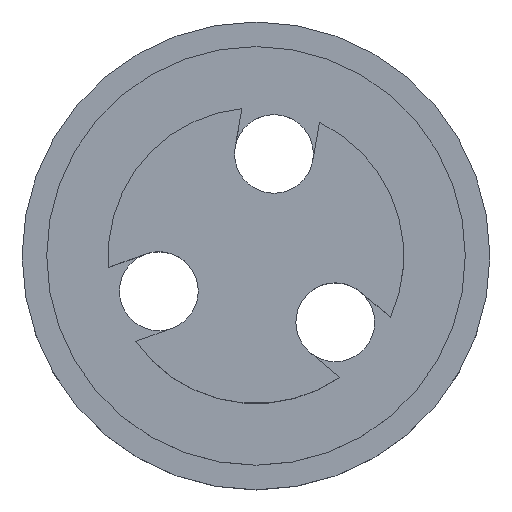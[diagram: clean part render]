
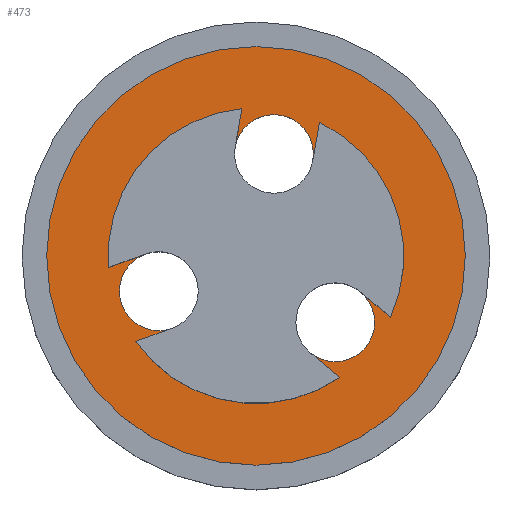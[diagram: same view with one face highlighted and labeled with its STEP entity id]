
A CAD part, top view. The second image highlights one B-rep face of the part: STEP entity #473.
In plain terms, the highlighted planar face has unit normal (0, 0, 1).
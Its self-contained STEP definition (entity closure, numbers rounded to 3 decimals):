
#19=FACE_BOUND('',#117,.T.);
#24=CIRCLE('',#503,1.6);
#25=CIRCLE('',#505,6.);
#28=CIRCLE('',#509,6.);
#29=CIRCLE('',#511,1.6);
#32=CIRCLE('',#515,1.6);
#34=CIRCLE('',#517,1.6);
#49=CIRCLE('',#541,8.5);
#50=CIRCLE('',#542,6.);
#87=FACE_OUTER_BOUND('',#116,.T.);
#116=EDGE_LOOP('',(#402));
#117=EDGE_LOOP('',(#403,#404,#405,#406,#407,#408,#409,#410,#411,#412,#413,
#414,#415));
#126=LINE('',#712,#161);
#130=LINE('',#721,#165);
#134=LINE('',#730,#169);
#138=LINE('',#739,#173);
#142=LINE('',#748,#177);
#146=LINE('',#757,#181);
#161=VECTOR('',#557,10.);
#165=VECTOR('',#563,10.);
#169=VECTOR('',#569,10.);
#173=VECTOR('',#575,10.);
#177=VECTOR('',#581,10.);
#181=VECTOR('',#587,10.);
#196=VERTEX_POINT('',#709);
#197=VERTEX_POINT('',#711);
#200=VERTEX_POINT('',#718);
#201=VERTEX_POINT('',#720);
#204=VERTEX_POINT('',#727);
#205=VERTEX_POINT('',#729);
#208=VERTEX_POINT('',#736);
#209=VERTEX_POINT('',#738);
#212=VERTEX_POINT('',#745);
#213=VERTEX_POINT('',#747);
#216=VERTEX_POINT('',#754);
#217=VERTEX_POINT('',#756);
#221=VERTEX_POINT('',#780);
#236=VERTEX_POINT('',#828);
#241=EDGE_CURVE('',#197,#196,#126,.T.);
#245=EDGE_CURVE('',#201,#200,#130,.T.);
#249=EDGE_CURVE('',#205,#204,#134,.T.);
#253=EDGE_CURVE('',#209,#208,#138,.T.);
#257=EDGE_CURVE('',#213,#212,#142,.T.);
#261=EDGE_CURVE('',#217,#216,#146,.T.);
#267=EDGE_CURVE('',#208,#205,#24,.T.);
#268=EDGE_CURVE('',#212,#201,#25,.T.);
#271=EDGE_CURVE('',#204,#217,#28,.T.);
#272=EDGE_CURVE('',#216,#213,#29,.T.);
#276=EDGE_CURVE('',#200,#221,#32,.T.);
#278=EDGE_CURVE('',#221,#197,#34,.T.);
#300=EDGE_CURVE('',#236,#236,#49,.T.);
#301=EDGE_CURVE('',#196,#209,#50,.T.);
#402=ORIENTED_EDGE('',*,*,#300,.F.);
#403=ORIENTED_EDGE('',*,*,#271,.T.);
#404=ORIENTED_EDGE('',*,*,#261,.T.);
#405=ORIENTED_EDGE('',*,*,#272,.T.);
#406=ORIENTED_EDGE('',*,*,#257,.T.);
#407=ORIENTED_EDGE('',*,*,#268,.T.);
#408=ORIENTED_EDGE('',*,*,#245,.T.);
#409=ORIENTED_EDGE('',*,*,#276,.T.);
#410=ORIENTED_EDGE('',*,*,#278,.T.);
#411=ORIENTED_EDGE('',*,*,#241,.T.);
#412=ORIENTED_EDGE('',*,*,#301,.T.);
#413=ORIENTED_EDGE('',*,*,#253,.T.);
#414=ORIENTED_EDGE('',*,*,#267,.T.);
#415=ORIENTED_EDGE('',*,*,#249,.T.);
#451=PLANE('',#540);
#473=ADVANCED_FACE('',(#87,#19),#451,.F.);
#503=AXIS2_PLACEMENT_3D('',#766,#598,#599);
#505=AXIS2_PLACEMENT_3D('',#768,#602,#603);
#509=AXIS2_PLACEMENT_3D('',#772,#610,#611);
#511=AXIS2_PLACEMENT_3D('',#774,#614,#615);
#515=AXIS2_PLACEMENT_3D('',#781,#623,#624);
#517=AXIS2_PLACEMENT_3D('',#783,#627,#628);
#540=AXIS2_PLACEMENT_3D('',#827,#680,#681);
#541=AXIS2_PLACEMENT_3D('',#829,#682,#683);
#542=AXIS2_PLACEMENT_3D('',#830,#684,#685);
#557=DIRECTION('',(0.766,-0.643,0.));
#563=DIRECTION('',(-0.766,0.643,0.));
#569=DIRECTION('',(-0.94,-0.342,0.));
#575=DIRECTION('',(0.94,0.342,0.));
#581=DIRECTION('',(0.174,0.985,0.));
#587=DIRECTION('',(-0.174,-0.985,0.));
#598=DIRECTION('center_axis',(0.,0.,
-1.));
#599=DIRECTION('ref_axis',(-0.985,0.174,0.));
#602=DIRECTION('center_axis',(0.,0.,
-1.));
#603=DIRECTION('ref_axis',(0.985,-0.174,0.));
#610=DIRECTION('center_axis',(0.,0.,
-1.));
#611=DIRECTION('ref_axis',(0.985,-0.174,0.));
#614=DIRECTION('center_axis',(0.,0.,
-1.));
#615=DIRECTION('ref_axis',(-0.985,0.174,0.));
#623=DIRECTION('center_axis',(0.,0.,
-1.));
#624=DIRECTION('ref_axis',(-0.985,0.174,0.));
#627=DIRECTION('center_axis',(0.,0.,
-1.));
#628=DIRECTION('ref_axis',(-0.985,0.174,0.));
#680=DIRECTION('center_axis',(0.,0.,
-1.));
#681=DIRECTION('ref_axis',(0.985,-0.174,0.));
#682=DIRECTION('center_axis',(0.,0.,
-1.));
#683=DIRECTION('ref_axis',(0.985,-0.174,0.));
#684=DIRECTION('center_axis',(0.,0.,
-1.));
#685=DIRECTION('ref_axis',(0.985,-0.174,0.));
#709=CARTESIAN_POINT('',(3.401,-4.943,11.8));
#711=CARTESIAN_POINT('',(2.189,-3.925,11.8));
#712=CARTESIAN_POINT('',(3.568,-5.082,11.8));
#718=CARTESIAN_POINT('',(4.246,-1.474,11.8));
#720=CARTESIAN_POINT('',(5.458,-2.491,11.8));
#721=CARTESIAN_POINT('',(4.246,-1.474,11.8));
#727=CARTESIAN_POINT('',(-5.981,-0.474,11.8));
#729=CARTESIAN_POINT('',(-4.494,0.067,11.8));
#730=CARTESIAN_POINT('',(-6.185,-0.549,11.8));
#736=CARTESIAN_POINT('',(-3.399,-2.94,11.8));
#738=CARTESIAN_POINT('',(-4.887,-3.481,11.8));
#739=CARTESIAN_POINT('',(-3.399,-2.94,11.8));
#745=CARTESIAN_POINT('',(2.58,5.417,11.8));
#747=CARTESIAN_POINT('',(2.305,3.858,11.8));
#748=CARTESIAN_POINT('',(2.618,5.631,11.8));
#754=CARTESIAN_POINT('',(-0.846,4.414,11.8));
#756=CARTESIAN_POINT('',(-0.572,5.973,11.8));
#757=CARTESIAN_POINT('',(-0.846,4.414,11.8));
#766=CARTESIAN_POINT('Origin',(-3.947,-1.436,11.8));
#768=CARTESIAN_POINT('Origin',(0.,0.,
11.8));
#772=CARTESIAN_POINT('Origin',(0.,0.,
11.8));
#774=CARTESIAN_POINT('Origin',(0.729,4.136,11.8));
#780=CARTESIAN_POINT('',(4.793,-2.978,11.8));
#781=CARTESIAN_POINT('Origin',(3.217,-2.7,11.8));
#783=CARTESIAN_POINT('Origin',(3.217,-2.7,11.8));
#827=CARTESIAN_POINT('Origin',(0.,0.,
11.8));
#828=CARTESIAN_POINT('',(-8.371,1.476,11.8));
#829=CARTESIAN_POINT('Origin',(0.,0.,
11.8));
#830=CARTESIAN_POINT('Origin',(0.,0.,
11.8));
